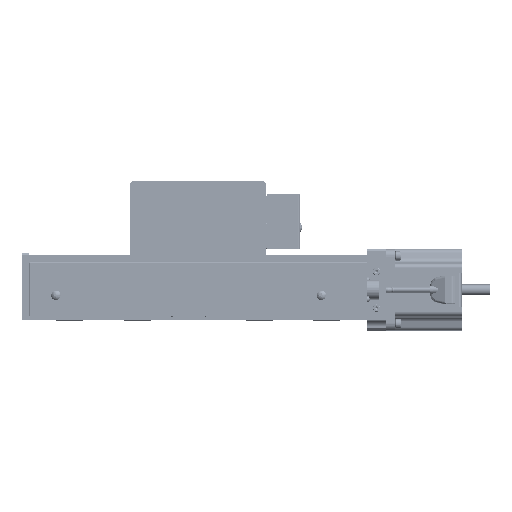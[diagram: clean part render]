
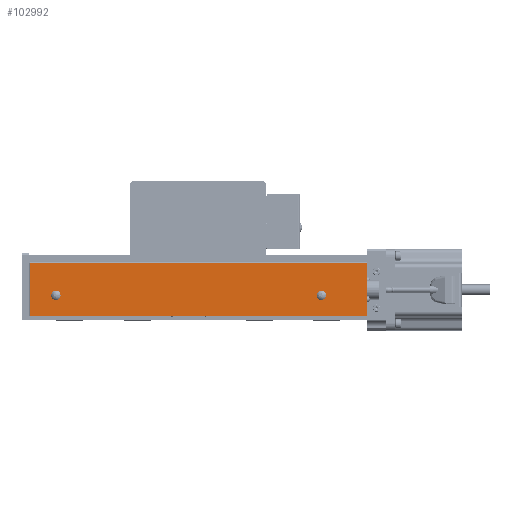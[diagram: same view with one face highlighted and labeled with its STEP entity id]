
A CAD part, front view. The second image highlights one B-rep face of the part: STEP entity #102992.
In plain terms, the highlighted planar face has unit normal (0, -1, 0) as drawn and (0, 1, 0) by its records, which use the part's own axes.
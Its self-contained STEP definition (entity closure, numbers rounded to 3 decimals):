
#2908 = DIRECTION ( 'NONE',  ( 0., 0., -1. ) ) ;
#3876 = CARTESIAN_POINT ( 'NONE',  ( 379.73, -85.111, 84. ) ) ;
#4373 = DIRECTION ( 'NONE',  ( 0., 0., 1. ) ) ;
#5165 = DIRECTION ( 'NONE',  ( 0., 0., 1. ) ) ;
#6952 = CARTESIAN_POINT ( 'NONE',  ( 398.73, -85.111, 109. ) ) ;
#9074 = LINE ( 'NONE', #120442, #84693 ) ;
#10624 = EDGE_CURVE ( 'NONE', #121091, #145693, #88707, .T. ) ;
#13474 = CARTESIAN_POINT ( 'NONE',  ( 149.73, -85.111, 108. ) ) ;
#14412 = DIRECTION ( 'NONE',  ( -1., 0., 0. ) ) ;
#14877 = EDGE_LOOP ( 'NONE', ( #74377, #138341 ) ) ;
#16612 = DIRECTION ( 'NONE',  ( 0., 1., 0. ) ) ;
#17401 = CARTESIAN_POINT ( 'NONE',  ( 183.73, -85.111, 84. ) ) ;
#18584 = DIRECTION ( 'NONE',  ( 0., 0., -1. ) ) ;
#19179 = EDGE_CURVE ( 'NONE', #116243, #134301, #54362, .T. ) ;
#25344 = FACE_BOUND ( 'NONE', #14877, .T. ) ;
#27078 = LINE ( 'NONE', #141255, #75660 ) ;
#27505 = FACE_BOUND ( 'NONE', #32722, .T. ) ;
#28656 = PLANE ( 'NONE',  #128777 ) ;
#29080 = VECTOR ( 'NONE', #2908, 1000. ) ;
#32722 = EDGE_LOOP ( 'NONE', ( #55277, #69154 ) ) ;
#33062 = VECTOR ( 'NONE', #14412, 1000. ) ;
#34572 = VERTEX_POINT ( 'NONE', #38089 ) ;
#35309 = EDGE_CURVE ( 'NONE', #134301, #116243, #53936, .T. ) ;
#36305 = VERTEX_POINT ( 'NONE', #51008 ) ;
#38089 = CARTESIAN_POINT ( 'NONE',  ( 187.18, -85.111, 84. ) ) ;
#38414 = CARTESIAN_POINT ( 'NONE',  ( 183.73, -85.111, 84. ) ) ;
#41034 = CARTESIAN_POINT ( 'NONE',  ( 376.28, -85.111, 84. ) ) ;
#41665 = CARTESIAN_POINT ( 'NONE',  ( 379.73, -85.111, 84. ) ) ;
#42686 = EDGE_LOOP ( 'NONE', ( #124166, #44495, #77959, #90852, #63731 ) ) ;
#43967 = LINE ( 'NONE', #46112, #105060 ) ;
#44495 = ORIENTED_EDGE ( 'NONE', *, *, #102318, .T. ) ;
#46112 = CARTESIAN_POINT ( 'NONE',  ( 398.73, -85.111, 109. ) ) ;
#47251 = CIRCLE ( 'NONE', #51574, 3.45 ) ;
#51008 = CARTESIAN_POINT ( 'NONE',  ( 180.28, -85.111, 84. ) ) ;
#51574 = AXIS2_PLACEMENT_3D ( 'NONE', #17401, #98718, #132900 ) ;
#52466 = CARTESIAN_POINT ( 'NONE',  ( 398.73, -85.111, 107.97 ) ) ;
#53936 = CIRCLE ( 'NONE', #74363, 3.45 ) ;
#54362 = CIRCLE ( 'NONE', #123037, 3.45 ) ;
#55277 = ORIENTED_EDGE ( 'NONE', *, *, #58116, .T. ) ;
#58116 = EDGE_CURVE ( 'NONE', #36305, #34572, #130163, .T. ) ;
#62179 = CARTESIAN_POINT ( 'NONE',  ( 398.73, -85.111, 109. ) ) ;
#63731 = ORIENTED_EDGE ( 'NONE', *, *, #96794, .T. ) ;
#66515 = CARTESIAN_POINT ( 'NONE',  ( 398.73, -85.111, 108. ) ) ;
#69154 = ORIENTED_EDGE ( 'NONE', *, *, #108683, .T. ) ;
#74363 = AXIS2_PLACEMENT_3D ( 'NONE', #41665, #99418, #111424 ) ;
#74377 = ORIENTED_EDGE ( 'NONE', *, *, #19179, .T. ) ;
#75660 = VECTOR ( 'NONE', #82003, 1000. ) ;
#77959 = ORIENTED_EDGE ( 'NONE', *, *, #10624, .T. ) ;
#82003 = DIRECTION ( 'NONE',  ( 1., 0., 0. ) ) ;
#84047 = VERTEX_POINT ( 'NONE', #13474 ) ;
#84693 = VECTOR ( 'NONE', #142668, 1000. ) ;
#88707 = LINE ( 'NONE', #117834, #33062 ) ;
#90850 = DIRECTION ( 'NONE',  ( 0., 0., -1. ) ) ;
#90852 = ORIENTED_EDGE ( 'NONE', *, *, #104601, .F. ) ;
#96794 = EDGE_CURVE ( 'NONE', #84047, #137646, #27078, .T. ) ;
#98718 = DIRECTION ( 'NONE',  ( 0., -1., 0. ) ) ;
#98790 = CARTESIAN_POINT ( 'NONE',  ( 398.73, -85.111, 68.5 ) ) ;
#99110 = LINE ( 'NONE', #62179, #29080 ) ;
#99418 = DIRECTION ( 'NONE',  ( 0., -1., 0. ) ) ;
#102318 = EDGE_CURVE ( 'NONE', #107078, #121091, #99110, .T. ) ;
#102992 = ADVANCED_FACE ( 'NONE', ( #25344, #27505, #123668 ), #28656, .T. ) ;
#103802 = CARTESIAN_POINT ( 'NONE',  ( 383.18, -85.111, 84. ) ) ;
#104601 = EDGE_CURVE ( 'NONE', #84047, #145693, #9074, .T. ) ;
#105060 = VECTOR ( 'NONE', #90850, 1000. ) ;
#107078 = VERTEX_POINT ( 'NONE', #52466 ) ;
#108683 = EDGE_CURVE ( 'NONE', #34572, #36305, #47251, .T. ) ;
#111424 = DIRECTION ( 'NONE',  ( 0., 0., 1. ) ) ;
#114176 = EDGE_CURVE ( 'NONE', #137646, #107078, #43967, .T. ) ;
#116243 = VERTEX_POINT ( 'NONE', #41034 ) ;
#117834 = CARTESIAN_POINT ( 'NONE',  ( 398.73, -85.111, 68.5 ) ) ;
#118377 = DIRECTION ( 'NONE',  ( 0., -1., 0. ) ) ;
#120442 = CARTESIAN_POINT ( 'NONE',  ( 149.73, -85.111, 109. ) ) ;
#121091 = VERTEX_POINT ( 'NONE', #98790 ) ;
#123037 = AXIS2_PLACEMENT_3D ( 'NONE', #3876, #118377, #4373 ) ;
#123668 = FACE_OUTER_BOUND ( 'NONE', #42686, .T. ) ;
#124166 = ORIENTED_EDGE ( 'NONE', *, *, #114176, .T. ) ;
#128777 = AXIS2_PLACEMENT_3D ( 'NONE', #6952, #16612, #18584 ) ;
#130163 = CIRCLE ( 'NONE', #133462, 3.45 ) ;
#132900 = DIRECTION ( 'NONE',  ( 0., 0., 1. ) ) ;
#133462 = AXIS2_PLACEMENT_3D ( 'NONE', #38414, #142895, #5165 ) ;
#134301 = VERTEX_POINT ( 'NONE', #103802 ) ;
#137646 = VERTEX_POINT ( 'NONE', #66515 ) ;
#138341 = ORIENTED_EDGE ( 'NONE', *, *, #35309, .T. ) ;
#141044 = CARTESIAN_POINT ( 'NONE',  ( 149.73, -85.111, 68.5 ) ) ;
#141255 = CARTESIAN_POINT ( 'NONE',  ( 398.73, -85.111, 108. ) ) ;
#142668 = DIRECTION ( 'NONE',  ( 0., 0., -1. ) ) ;
#142895 = DIRECTION ( 'NONE',  ( 0., -1., 0. ) ) ;
#145693 = VERTEX_POINT ( 'NONE', #141044 ) ;
